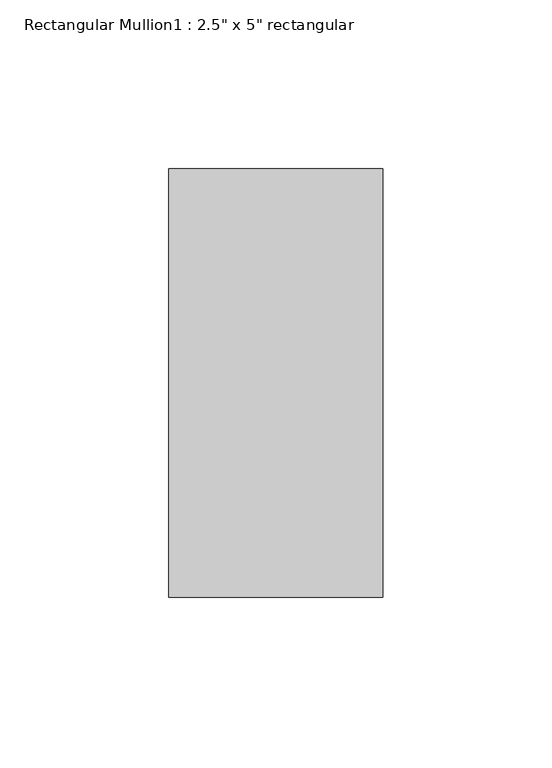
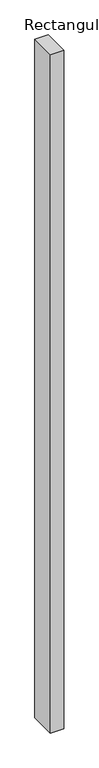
"""IFC4 building model written with IfcOpenShell, lengths in millimetres: member geometry."""

from ifc_helpers import new_model, si_unit, frame, origin, place, context, project, spatial, polyline, outline, extrude, source, transform, mapped, element, save


def member_349911e8(model_context):
    return source(origin(), model_context, "Body", "SweptSolid", [
        extrude(outline(polyline([(31.75, 63.5), (31.75, -63.5), (-31.75, -63.5), (-31.75, 63.5), (31.75, 63.5)])), frame((0.0, 0.0, -3414.1833333), z_axis=(0.0, 0.0, 1.0), x_axis=(1.0, 0.0, 0.0)), (0.0, 0.0, 1.0), 3414.1833333),
    ])


if __name__ == "__main__":
    model = new_model("IFC4")
    model_context = context("Model", 3, world=origin())
    ifc_project = project(units=[si_unit("LENGTHUNIT", "METRE", prefix="MILLI")], contexts=[model_context])
    site = spatial("IfcSite", under=ifc_project)
    building = spatial("IfcBuilding", under=site)
    placement = place(None, origin())
    member_shape = member_349911e8(model_context)
    element("IfcMember", 1, ObjectType="Rectangular Mullion1 : 2.5\" x 5\" rectangular", at=placement, inside=building, context=model_context, shape_type="MappedRepresentation", body=[
        mapped(member_shape, transform((0.0, 0.0, 0.0), x_axis=(1.0, 0.0, 0.0), y_axis=(0.0, 1.0, 0.0), z_axis=(0.0, 0.0, 1.0))),
    ])
    save(model, "model.ifc")
